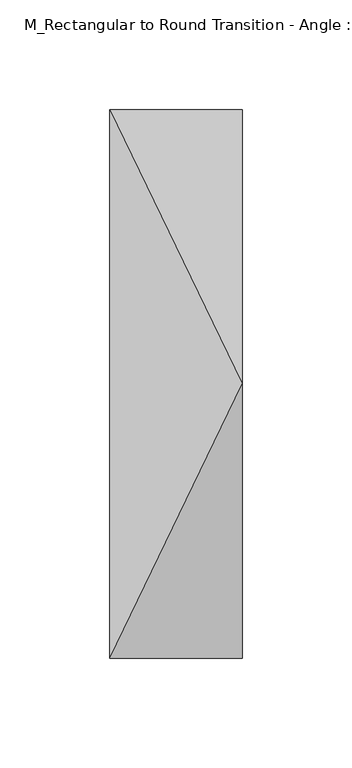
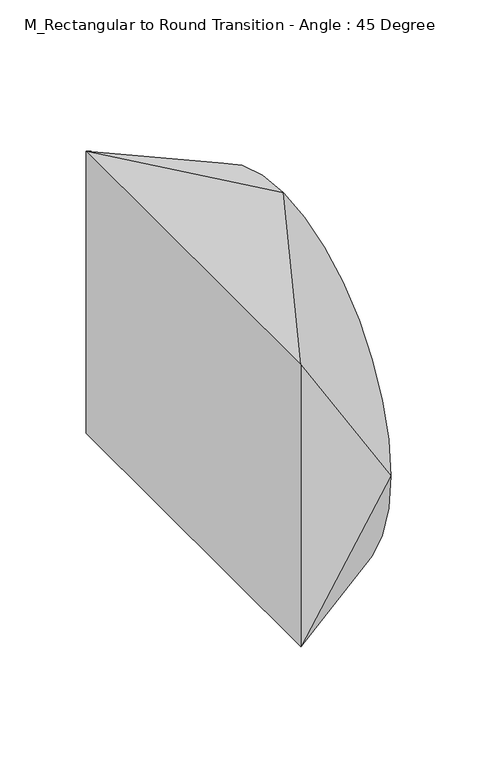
"""IFC4 building model written with IfcOpenShell, lengths in millimetres: duct fitting geometry, M_Rectangular to Round Transition - Angle : 45 Degree."""

from ifc_helpers import new_model, si_unit, frame, origin, place, context, project, spatial, circle_curve, source, transform, mapped, element, save
from ifc_brep_helpers import plane_surface, spline_surface, advanced_brep


def m_rectangular_to_round_transition_angle_45_degree_a335dc79(model_context):
    return source(origin(), model_context, "Body", "AdvancedBrep", [
        advanced_brep(
        [(0.0, -125.0, -100.0), (0.0, -125.0, 100.0), (0.0, 125.0, 100.0), (0.0, 125.0, -100.0), (60.3553037, -125.0, 0.05), (60.3553037, 0.0, -124.95), (60.3553037, 125.0, 0.05), (60.3553037, 0.0, 125.05)],
        [
            (0, 1),
            (1, 2),
            (2, 3),
            (3, 0),
            (4, 5, circle_curve(frame((60.3553037, 0.0, 0.05), z_axis=(1.0, 0.0, 0.0), x_axis=(0.0, -1.0, 0.0)), 125.0)),
            (5, 6, circle_curve(frame((60.3553037, 0.0, 0.05), z_axis=(1.0, 0.0, 0.0), x_axis=(0.0, -1.0, 0.0)), 125.0)),
            (6, 7, circle_curve(frame((60.3553037, 0.0, 0.05), z_axis=(1.0, 0.0, 0.0), x_axis=(0.0, -1.0, 0.0)), 125.0)),
            (7, 4, circle_curve(frame((60.3553037, 0.0, 0.05), z_axis=(1.0, 0.0, 0.0), x_axis=(0.0, -1.0, 0.0)), 125.0)),
            (0, 4),
            (4, 1),
            (7, 1),
            (7, 2),
            (6, 2),
            (6, 3),
            (5, 3),
            (5, 0),
        ],
        [
            plane_surface(frame((0.0, 0.0, 0.0), z_axis=(-1.0, 0.0, 0.0), x_axis=(0.0, 1.0, 0.0))),
            plane_surface(frame((60.3553037, 0.0, 0.05), z_axis=(1.0, 0.0, 0.0), x_axis=(0.0, 1.0, 0.0))),
            plane_surface(frame((60.3553037, -125.0, 0.05), z_axis=(0.0, -1.0, 0.0), x_axis=(0.0, 0.0, 1.0))),
            spline_surface(2, 1, [[(60.3553037, -125.0, 0.05), (0.0, -125.0, 100.0)], [(60.3553037, -125.0, 125.05), (0.0, -125.0, 100.0)], [(60.3553037, 0.0, 125.05), (0.0, -125.0, 100.0)]], [3, 3], [2, 2], [0.0, 1.0], [0.0, 1.0], weights=[[1.0, 1.0], [0.7071067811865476, 0.7071067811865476], [1.0, 1.0]]),
            plane_surface(frame((60.3553037, 0.0, 125.05), z_axis=(-0.3833366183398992, 0.0, 0.9236087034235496), x_axis=(0.0, 1.0, 0.0))),
            spline_surface(2, 1, [[(60.3553037, 0.0, 125.05), (0.0, 125.0, 100.0)], [(60.3553037, 125.0, 125.05), (0.0, 125.0, 100.0)], [(60.3553037, 125.0, 0.05), (0.0, 125.0, 100.0)]], [3, 3], [2, 2], [0.0, 1.0], [0.0, 1.0], weights=[[1.0, 1.0], [0.7071067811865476, 0.7071067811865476], [1.0, 1.0]]),
            plane_surface(frame((60.3553037, 125.0, 0.05), z_axis=(0.0, 1.0, 0.0), x_axis=(0.0, 0.0, -1.0))),
            spline_surface(2, 1, [[(60.3553037, 125.0, 0.05), (0.0, 125.0, -100.0)], [(60.3553037, 125.0, -124.95), (0.0, 125.0, -100.0)], [(60.3553037, 0.0, -124.95), (0.0, 125.0, -100.0)]], [3, 3], [2, 2], [0.0, 1.0], [0.0, 1.0], weights=[[1.0, 1.0], [0.7071067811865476, 0.7071067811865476], [1.0, 1.0]]),
            plane_surface(frame((60.3553037, 0.0, -124.95), z_axis=(-0.3820300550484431, 0.0, -0.9241498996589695), x_axis=(0.0, -1.0, 0.0))),
            spline_surface(2, 1, [[(60.3553037, 0.0, -124.95), (0.0, -125.0, -100.0)], [(60.3553037, -125.0, -124.95), (0.0, -125.0, -100.0)], [(60.3553037, -125.0, 0.05), (0.0, -125.0, -100.0)]], [3, 3], [2, 2], [0.0, 1.0], [0.0, 1.0], weights=[[1.0, 1.0], [0.7071067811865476, 0.7071067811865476], [1.0, 1.0]]),
        ],
        [
            (0, [[1, 2, 3, 4]]),
            (1, [[5, 6, 7, 8]]),
            (2, [[-1, 9, 10]]),
            (3, [[-8, 11, -10]]),
            (4, [[-2, -11, 12]]),
            (5, [[-7, 13, -12]]),
            (6, [[-3, -13, 14]]),
            (7, [[-6, 15, -14]]),
            (8, [[-4, -15, 16]]),
            (9, [[-5, -9, -16]]),
        ],
    ),
        advanced_brep(
        [(0.0, -125.0, -100.0), (0.0, -125.0, 100.0), (0.0, 125.0, 100.0), (0.0, 125.0, -100.0), (60.3553037, -125.0, 0.05), (60.3553037, 0.0, -124.95), (60.3553037, 125.0, 0.05), (60.3553037, 0.0, 125.05)],
        [
            (0, 1),
            (1, 2),
            (2, 3),
            (3, 0),
            (4, 5, circle_curve(frame((60.3553037, 0.0, 0.05), z_axis=(1.0, 0.0, 0.0), x_axis=(0.0, -1.0, 0.0)), 125.0)),
            (5, 6, circle_curve(frame((60.3553037, 0.0, 0.05), z_axis=(1.0, 0.0, 0.0), x_axis=(0.0, -1.0, 0.0)), 125.0)),
            (6, 7, circle_curve(frame((60.3553037, 0.0, 0.05), z_axis=(1.0, 0.0, 0.0), x_axis=(0.0, -1.0, 0.0)), 125.0)),
            (7, 4, circle_curve(frame((60.3553037, 0.0, 0.05), z_axis=(1.0, 0.0, 0.0), x_axis=(0.0, -1.0, 0.0)), 125.0)),
            (0, 4),
            (4, 1),
            (7, 1),
            (7, 2),
            (6, 2),
            (6, 3),
            (5, 3),
            (5, 0),
        ],
        [
            plane_surface(frame((0.0, 0.0, 0.0), z_axis=(-1.0, 0.0, 0.0), x_axis=(0.0, 1.0, 0.0))),
            plane_surface(frame((60.3553037, 0.0, 0.05), z_axis=(1.0, 0.0, 0.0), x_axis=(0.0, 1.0, 0.0))),
            plane_surface(frame((60.3553037, -125.0, 0.05), z_axis=(0.0, -1.0, 0.0), x_axis=(0.0, 0.0, 1.0))),
            spline_surface(2, 1, [[(60.3553037, -125.0, 0.05), (0.0, -125.0, 100.0)], [(60.3553037, -125.0, 125.05), (0.0, -125.0, 100.0)], [(60.3553037, 0.0, 125.05), (0.0, -125.0, 100.0)]], [3, 3], [2, 2], [0.0, 1.0], [0.0, 1.0], weights=[[1.0, 1.0], [0.7071067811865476, 0.7071067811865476], [1.0, 1.0]]),
            plane_surface(frame((60.3553037, 0.0, 125.05), z_axis=(-0.3833366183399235, 0.0, 0.9236087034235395), x_axis=(0.0, 1.0, 0.0))),
            spline_surface(2, 1, [[(60.3553037, 0.0, 125.05), (0.0, 125.0, 100.0)], [(60.3553037, 125.0, 125.05), (0.0, 125.0, 100.0)], [(60.3553037, 125.0, 0.05), (0.0, 125.0, 100.0)]], [3, 3], [2, 2], [0.0, 1.0], [0.0, 1.0], weights=[[1.0, 1.0], [0.7071067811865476, 0.7071067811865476], [1.0, 1.0]]),
            plane_surface(frame((60.3553037, 125.0, 0.05), z_axis=(0.0, 1.0, 0.0), x_axis=(0.0, 0.0, -1.0))),
            spline_surface(2, 1, [[(60.3553037, 125.0, 0.05), (0.0, 125.0, -100.0)], [(60.3553037, 125.0, -124.95), (0.0, 125.0, -100.0)], [(60.3553037, 0.0, -124.95), (0.0, 125.0, -100.0)]], [3, 3], [2, 2], [0.0, 1.0], [0.0, 1.0], weights=[[1.0, 1.0], [0.7071067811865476, 0.7071067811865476], [1.0, 1.0]]),
            plane_surface(frame((60.3553037, 0.0, -124.95), z_axis=(-0.3820300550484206, 0.0, -0.924149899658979), x_axis=(0.0, -1.0, 0.0))),
            spline_surface(2, 1, [[(60.3553037, 0.0, -124.95), (0.0, -125.0, -100.0)], [(60.3553037, -125.0, -124.95), (0.0, -125.0, -100.0)], [(60.3553037, -125.0, 0.05), (0.0, -125.0, -100.0)]], [3, 3], [2, 2], [0.0, 1.0], [0.0, 1.0], weights=[[1.0, 1.0], [0.7071067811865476, 0.7071067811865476], [1.0, 1.0]]),
        ],
        [
            (0, [[1, 2, 3, 4]]),
            (1, [[5, 6, 7, 8]]),
            (2, [[-1, 9, 10]]),
            (3, [[-8, 11, -10]]),
            (4, [[-2, -11, 12]]),
            (5, [[-7, 13, -12]]),
            (6, [[-3, -13, 14]]),
            (7, [[-6, 15, -14]]),
            (8, [[-4, -15, 16]]),
            (9, [[-5, -9, -16]]),
        ],
    ),
        advanced_brep(
        [(60.3553037, 0.0, 125.05), (60.3553037, -125.0, 0.05), (60.3553037, 0.0, -124.95), (60.3553037, 125.0, 0.05), (0.0, -125.0, 100.0), (0.0, 125.0, 100.0), (0.0, 125.0, -100.0), (0.0, -125.0, -100.0)],
        [
            (0, 1, circle_curve(frame((60.3553037, 0.0, 0.05), z_axis=(1.0, 0.0, 0.0), x_axis=(0.0, 1.0, 0.0)), 125.0)),
            (1, 2, circle_curve(frame((60.3553037, 0.0, 0.05), z_axis=(1.0, 0.0, 0.0), x_axis=(0.0, 1.0, 0.0)), 125.0)),
            (2, 3, circle_curve(frame((60.3553037, 0.0, 0.05), z_axis=(1.0, 0.0, 0.0), x_axis=(0.0, 1.0, 0.0)), 125.0)),
            (3, 0, circle_curve(frame((60.3553037, 0.0, 0.05), z_axis=(1.0, 0.0, 0.0), x_axis=(0.0, 1.0, 0.0)), 125.0)),
            (4, 5),
            (5, 6),
            (6, 7),
            (7, 4),
            (0, 4),
            (4, 1),
            (7, 1),
            (7, 2),
            (6, 2),
            (6, 3),
            (5, 3),
            (5, 0),
        ],
        [
            plane_surface(frame((60.3553037, 0.0, 0.05), z_axis=(1.0, 0.0, 0.0), x_axis=(0.0, 0.0, -1.0))),
            plane_surface(frame((0.0, 0.0, 0.0), z_axis=(-1.0, 0.0, 0.0), x_axis=(0.0, 0.0, -1.0))),
            spline_surface(2, 1, [[(0.0, -125.0, 100.0), (60.3553037, 0.0, 125.05)], [(0.0, -125.0, 100.0), (60.3553037, -125.0, 125.05)], [(0.0, -125.0, 100.0), (60.3553037, -125.0, 0.05)]], [3, 3], [2, 2], [0.0, 1.0], [0.0, 1.0], weights=[[1.0, 1.0], [0.7071067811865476, 0.7071067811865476], [1.0, 1.0]]),
            plane_surface(frame((0.0, -125.0, 0.0), z_axis=(0.0, -1.0, 0.0), x_axis=(0.0, 0.0, -1.0))),
            spline_surface(2, 1, [[(0.0, -125.0, -100.0), (60.3553037, -125.0, 0.05)], [(0.0, -125.0, -100.0), (60.3553037, -125.0, -124.95)], [(0.0, -125.0, -100.0), (60.3553037, 0.0, -124.95)]], [3, 3], [2, 2], [0.0, 1.0], [0.0, 1.0], weights=[[1.0, 1.0], [0.7071067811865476, 0.7071067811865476], [1.0, 1.0]]),
            plane_surface(frame((0.0, 0.0, -100.0), z_axis=(-0.3820300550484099, 0.0, -0.9241498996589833), x_axis=(0.0, 1.0, 0.0))),
            spline_surface(2, 1, [[(0.0, 125.0, -100.0), (60.3553037, 0.0, -124.95)], [(0.0, 125.0, -100.0), (60.3553037, 125.0, -124.95)], [(0.0, 125.0, -100.0), (60.3553037, 125.0, 0.05)]], [3, 3], [2, 2], [0.0, 1.0], [0.0, 1.0], weights=[[1.0, 1.0], [0.7071067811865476, 0.7071067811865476], [1.0, 1.0]]),
            plane_surface(frame((0.0, 125.0, 0.0), z_axis=(0.0, 1.0, 0.0), x_axis=(0.0, 0.0, 1.0))),
            spline_surface(2, 1, [[(0.0, 125.0, 100.0), (60.3553037, 125.0, 0.05)], [(0.0, 125.0, 100.0), (60.3553037, 125.0, 125.05)], [(0.0, 125.0, 100.0), (60.3553037, 0.0, 125.05)]], [3, 3], [2, 2], [0.0, 1.0], [0.0, 1.0], weights=[[1.0, 1.0], [0.7071067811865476, 0.7071067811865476], [1.0, 1.0]]),
            plane_surface(frame((0.0, 0.0, 100.0), z_axis=(-0.38333661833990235, 0.0, 0.9236087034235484), x_axis=(0.0, -1.0, 0.0))),
        ],
        [
            (0, [[1, 2, 3, 4]]),
            (1, [[5, 6, 7, 8]]),
            (2, [[-1, 9, 10]]),
            (3, [[-8, 11, -10]]),
            (4, [[-2, -11, 12]]),
            (5, [[-7, 13, -12]]),
            (6, [[-3, -13, 14]]),
            (7, [[-6, 15, -14]]),
            (8, [[-4, -15, 16]]),
            (9, [[-5, -9, -16]]),
        ],
    ),
    ])


if __name__ == "__main__":
    model = new_model("IFC4")
    model_context = context("Model", 3, world=origin())
    ifc_project = project(units=[si_unit("LENGTHUNIT", "METRE", prefix="MILLI")], contexts=[model_context])
    site = spatial("IfcSite", under=ifc_project)
    building = spatial("IfcBuilding", under=site)
    placement = place(None, origin())
    m_rectangular_to_round_transition_angle_45_degree_shape = m_rectangular_to_round_transition_angle_45_degree_a335dc79(model_context)
    element("IfcDuctFitting", 1, ObjectType="M_Rectangular to Round Transition - Angle : 45 Degree", at=placement, inside=building, context=model_context, shape_type="MappedRepresentation", body=[
        mapped(m_rectangular_to_round_transition_angle_45_degree_shape, transform((0.0, 0.0, 0.0), x_axis=(1.0, 0.0, 0.0), y_axis=(0.0, 1.0, 0.0), z_axis=(0.0, 0.0, 1.0))),
    ])
    save(model, "model.ifc")
